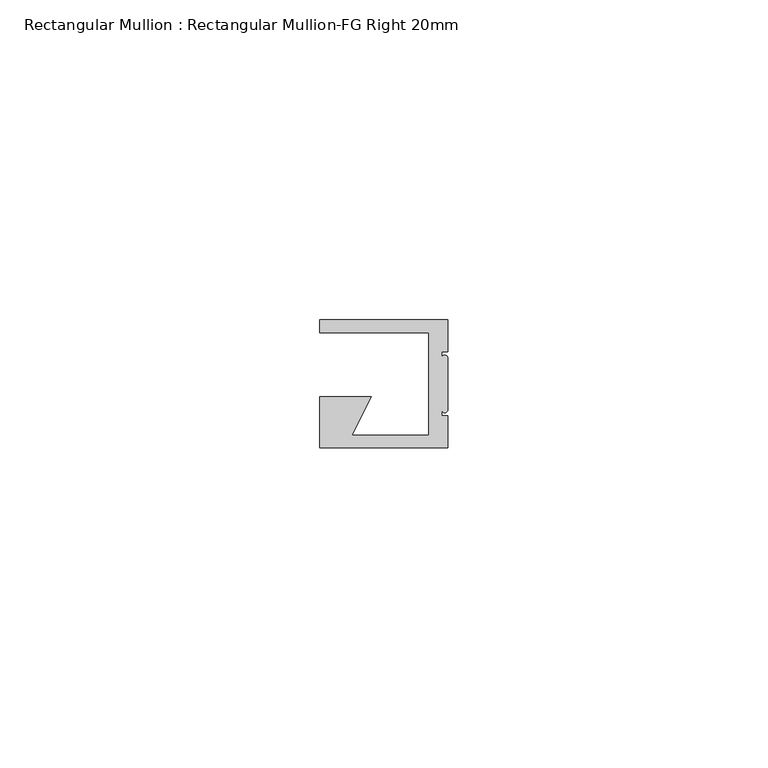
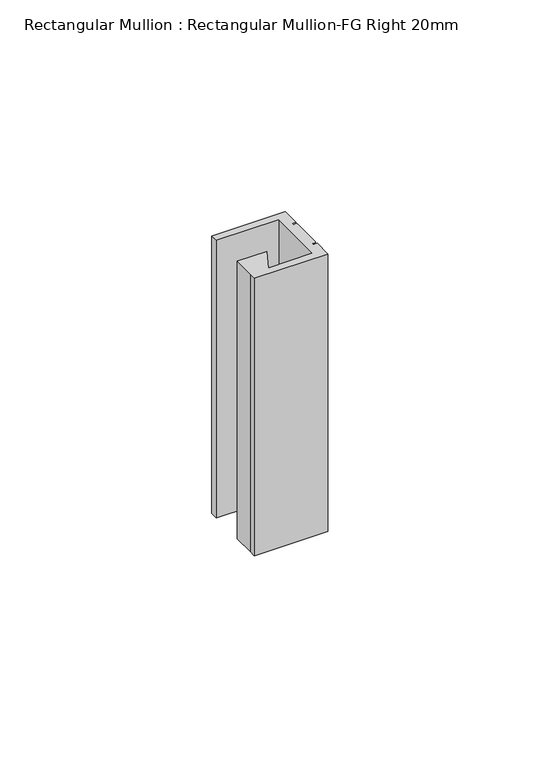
"""IFC4 building model written with IfcOpenShell, lengths in millimetres: member geometry, Rectangular Mullion : Rectangular Mullion-FG Right 20mm."""

from ifc_helpers import new_model, si_unit, frame, origin, place, context, project, spatial, circle_curve, source, transform, mapped, element, save
from ifc_brep_helpers import plane_surface, cylinder_surface, advanced_brep


def rectangular_mullion_rectangular_mullion_fg_right_20mm_bd3cf4a2(model_context):
    return source(origin(), model_context, "Body", "AdvancedBrep", [
        advanced_brep(
        [(0.0, -5.0, 0.0), (0.0, 0.0, 0.0), (-20.0, 0.0, 0.0), (-20.0, -2.0, 0.0), (-3.0, -2.0, 0.0), (-3.0, -18.0, 0.0), (-15.0, -18.0, 0.0), (-12.0, -12.0, 0.0), (-20.0, -12.0, 0.0), (-20.0, -18.0, 0.0), (-20.0, -20.0, 0.0), (0.0, -20.0, 0.0), (0.0, -15.0, 0.0), (-1.0, -15.0, 0.0), (-1.0, -14.0, 0.0), (0.0, -14.0, 0.0), (0.0, -6.0, 0.0), (-1.0, -6.0, 0.0), (-1.0, -5.0, 0.0), (0.0, -5.0, -80.0), (-1.0, -5.0, -80.0), (-1.0, -6.0, -80.0), (0.0, -6.0, -80.0), (0.0, -14.0, -80.0), (-1.0, -14.0, -80.0), (-1.0, -15.0, -80.0), (0.0, -15.0, -80.0), (0.0, -20.0, -80.0), (-20.0, -20.0, -80.0), (-20.0, -18.0, -80.0), (-20.0, -12.0, -80.0), (-12.0, -12.0, -80.0), (-15.0, -18.0, -80.0), (-3.0, -18.0, -80.0), (-3.0, -2.0, -80.0), (-20.0, -2.0, -80.0), (-20.0, 0.0, -80.0), (0.0, 0.0, -80.0)],
        [
            (0, 1),
            (1, 2),
            (2, 3),
            (3, 4),
            (4, 5),
            (5, 6),
            (6, 7),
            (7, 8),
            (8, 9),
            (9, 10),
            (10, 11),
            (11, 12),
            (12, 13),
            (13, 14),
            (14, 15, circle_curve(frame((-0.5, -14.0, 0.0), z_axis=(0.0, 0.0, 1.0), x_axis=(1.0, 0.0, 0.0)), 0.5)),
            (15, 16),
            (16, 17, circle_curve(frame((-0.5, -6.0, 0.0), z_axis=(0.0, 0.0, 1.0), x_axis=(1.0, 0.0, 0.0)), 0.5)),
            (17, 18),
            (18, 0),
            (19, 20),
            (20, 21),
            (21, 22, circle_curve(frame((-0.5, -6.0, -80.0), z_axis=(0.0, 0.0, -1.0), x_axis=(1.0, 0.0, 0.0)), 0.5)),
            (22, 23),
            (23, 24, circle_curve(frame((-0.5, -14.0, -80.0), z_axis=(0.0, 0.0, -1.0), x_axis=(1.0, 0.0, 0.0)), 0.5)),
            (24, 25),
            (25, 26),
            (26, 27),
            (27, 28),
            (28, 29),
            (29, 30),
            (30, 31),
            (31, 32),
            (32, 33),
            (33, 34),
            (34, 35),
            (35, 36),
            (36, 37),
            (37, 19),
            (0, 19),
            (37, 1),
            (36, 2),
            (35, 3),
            (34, 4),
            (33, 5),
            (32, 6),
            (31, 7),
            (30, 8),
            (29, 9),
            (28, 10),
            (27, 11),
            (26, 12),
            (25, 13),
            (24, 14),
            (23, 15),
            (22, 16),
            (21, 17),
            (20, 18),
        ],
        [
            plane_surface(frame((0.0, -28.2842712, 0.0), z_axis=(0.0, 0.0, 1.0), x_axis=(-1.0, 0.0, 0.0))),
            plane_surface(frame((0.0, -28.2842712, -80.0), z_axis=(0.0, 0.0, -1.0), x_axis=(-1.0, 0.0, 0.0))),
            plane_surface(frame((0.0, -5.0, 0.0), z_axis=(1.0, 0.0, 0.0), x_axis=(0.0, 0.0, -1.0))),
            plane_surface(frame((0.0, 0.0, 0.0), z_axis=(0.0, 1.0, 0.0), x_axis=(0.0, 0.0, -1.0))),
            plane_surface(frame((-20.0, 0.0, 0.0), z_axis=(-1.0, 0.0, 0.0), x_axis=(0.0, 0.0, -1.0))),
            plane_surface(frame((-20.0, -2.0, 0.0), z_axis=(0.0, -1.0, 0.0), x_axis=(0.0, 0.0, -1.0))),
            plane_surface(frame((-3.0, -2.0, 0.0), z_axis=(-1.0, 0.0, 0.0), x_axis=(0.0, 0.0, -1.0))),
            plane_surface(frame((-3.0, -18.0, 0.0), z_axis=(0.0, 1.0, 0.0), x_axis=(0.0, 0.0, -1.0))),
            plane_surface(frame((-15.0, -18.0, 0.0), z_axis=(0.8944271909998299, -0.4472135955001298, 0.0), x_axis=(0.0, 0.0, -1.0))),
            plane_surface(frame((-12.0, -12.0, 0.0), z_axis=(0.0, 1.0, 0.0), x_axis=(0.0, 0.0, -1.0))),
            plane_surface(frame((-20.0, -12.0, 0.0), z_axis=(-1.0, 0.0, 0.0), x_axis=(0.0, 0.0, -1.0))),
            plane_surface(frame((-20.0, -18.0, 0.0), z_axis=(-1.0, 0.0, 0.0), x_axis=(0.0, 0.0, -1.0))),
            plane_surface(frame((-20.0, -20.0, 0.0), z_axis=(0.0, -1.0, 0.0), x_axis=(0.0, 0.0, -1.0))),
            plane_surface(frame((0.0, -20.0, 0.0), z_axis=(1.0, 0.0, 0.0), x_axis=(0.0, 0.0, -1.0))),
            plane_surface(frame((0.0, -15.0, 0.0), z_axis=(0.0, 1.0, 0.0), x_axis=(0.0, 0.0, -1.0))),
            plane_surface(frame((-1.0, -15.0, 0.0), z_axis=(1.0, 0.0, 0.0), x_axis=(0.0, 0.0, -1.0))),
            cylinder_surface(frame((-0.5, -14.0, 0.0), z_axis=(0.0, 0.0, 1.0), x_axis=(1.0, 0.0, 0.0)), 0.5),
            plane_surface(frame((0.0, -14.0, 0.0), z_axis=(1.0, 0.0, 0.0), x_axis=(0.0, 0.0, -1.0))),
            cylinder_surface(frame((-0.5, -6.0, 0.0), z_axis=(0.0, 0.0, 1.0), x_axis=(1.0, 0.0, 0.0)), 0.5),
            plane_surface(frame((-1.0, -6.0, 0.0), z_axis=(1.0, 0.0, 0.0), x_axis=(0.0, 0.0, -1.0))),
            plane_surface(frame((-1.0, -5.0, 0.0), z_axis=(0.0, -1.0, 0.0), x_axis=(0.0, 0.0, -1.0))),
        ],
        [
            (0, [[1, 2, 3, 4, 5, 6, 7, 8, 9, 10, 11, 12, 13, 14, 15, 16, 17, 18, 19]]),
            (1, [[20, 21, 22, 23, 24, 25, 26, 27, 28, 29, 30, 31, 32, 33, 34, 35, 36, 37, 38]]),
            (2, [[-1, 39, -38, 40]]),
            (3, [[-2, -40, -37, 41]]),
            (4, [[-3, -41, -36, 42]]),
            (5, [[-4, -42, -35, 43]]),
            (6, [[-5, -43, -34, 44]]),
            (7, [[-6, -44, -33, 45]]),
            (8, [[-7, -45, -32, 46]]),
            (9, [[-8, -46, -31, 47]]),
            (10, [[-9, -47, -30, 48]]),
            (11, [[-10, -48, -29, 49]]),
            (12, [[-11, -49, -28, 50]]),
            (13, [[-12, -50, -27, 51]]),
            (14, [[-13, -51, -26, 52]]),
            (15, [[-14, -52, -25, 53]]),
            (16, [[-15, -53, -24, 54]]),
            (17, [[-16, -54, -23, 55]]),
            (18, [[-17, -55, -22, 56]]),
            (19, [[-18, -56, -21, 57]]),
            (20, [[-19, -57, -20, -39]]),
        ],
    ),
    ])


if __name__ == "__main__":
    model = new_model("IFC4")
    model_context = context("Model", 3, world=origin())
    ifc_project = project(units=[si_unit("LENGTHUNIT", "METRE", prefix="MILLI")], contexts=[model_context])
    site = spatial("IfcSite", under=ifc_project)
    building = spatial("IfcBuilding", under=site)
    placement = place(None, origin())
    rectangular_mullion_rectangular_mullion_fg_right_20mm_shape = rectangular_mullion_rectangular_mullion_fg_right_20mm_bd3cf4a2(model_context)
    element("IfcMember", 1, ObjectType="Rectangular Mullion : Rectangular Mullion-FG Right 20mm", at=placement, inside=building, context=model_context, shape_type="MappedRepresentation", body=[
        mapped(rectangular_mullion_rectangular_mullion_fg_right_20mm_shape, transform((0.0, 0.0, 0.0), x_axis=(1.0, 0.0, 0.0), y_axis=(0.0, 1.0, 0.0), z_axis=(0.0, 0.0, 1.0))),
    ])
    save(model, "model.ifc")
